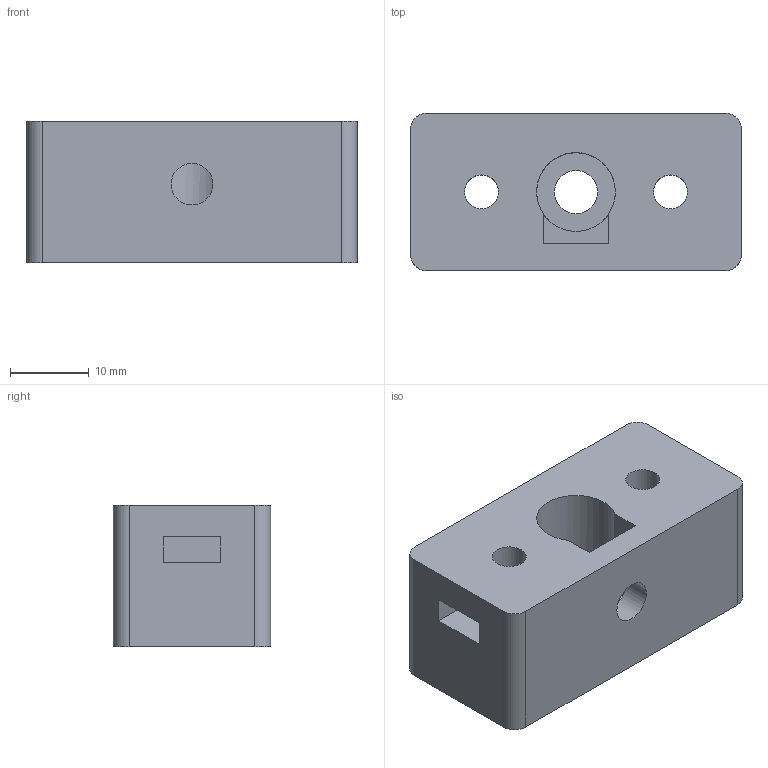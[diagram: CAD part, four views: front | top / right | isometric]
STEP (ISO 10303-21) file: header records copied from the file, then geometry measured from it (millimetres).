
FILE_DESCRIPTION(('Open CASCADE Model'),'2;1');
FILE_NAME('IdlerMountMotor','2026-06-25T14:49:35',('Author'),( 'Open CASCADE'),'Open CASCADE STEP processor 7.8','build123d', 'Unknown');
FILE_SCHEMA(('AUTOMOTIVE_DESIGN { 1 0 10303 214 1 1 1 1 }'));
Length unit declared in the file: millimetre
Products named in the file (1): IdlerMountMotor
Bounding box: 42 x 20 x 18 mm (x, y, z)
Volume: 11494 mm3; surface area: 5508.8 mm2
Topology: 1 solids, 1 shells, 36 faces, 87 edges, 58 vertices
Faces by surface type: plane 23, cylinder 13
Full cylindrical faces by diameter (mm): 4.3 x4, 5.3 x1, 5.5 x1, 10 x3
Entity records: 2253 total; most frequent: CARTESIAN_POINT 426, DIRECTION 348, LINE 201, VECTOR 201, ORIENTED_EDGE 174, PCURVE 174, DEFINITIONAL_REPRESENTATION 174, EDGE_CURVE 87
